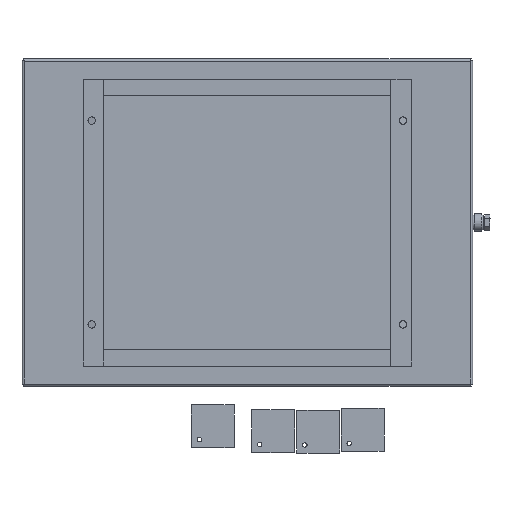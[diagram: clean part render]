
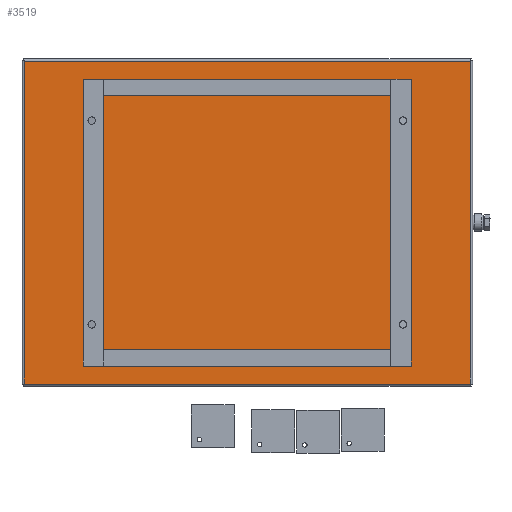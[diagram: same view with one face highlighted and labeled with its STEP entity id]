
A CAD part, front view. The second image highlights one B-rep face of the part: STEP entity #3519.
In plain terms, the highlighted planar face has unit normal (0, -1, 0).
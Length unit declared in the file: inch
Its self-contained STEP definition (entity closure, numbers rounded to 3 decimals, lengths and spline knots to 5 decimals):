
#229 = ORIENTED_EDGE ( 'NONE', *, *, #1499, .T. ) ;
#364 = ORIENTED_EDGE ( 'NONE', *, *, #1323, .T. ) ;
#442 = VECTOR ( 'NONE', #1329, 39.37008 ) ;
#444 = LINE ( 'NONE', #1302, #3219 ) ;
#477 = CARTESIAN_POINT ( 'NONE',  ( 0., -0.1345, 0. ) ) ;
#614 = CARTESIAN_POINT ( 'NONE',  ( 41.86543, -0.1345, -0.197 ) ) ;
#668 = CARTESIAN_POINT ( 'NONE',  ( 41.803, -0.1345, -0.197 ) ) ;
#700 = PLANE ( 'NONE',  #3362 ) ;
#752 = DIRECTION ( 'NONE',  ( 1., 0., 0. ) ) ;
#767 = FACE_OUTER_BOUND ( 'NONE', #2419, .T. ) ;
#885 = DIRECTION ( 'NONE',  ( -1., 0., 0. ) ) ;
#928 = VERTEX_POINT ( 'NONE', #2412 ) ;
#991 = VERTEX_POINT ( 'NONE', #2493 ) ;
#1042 = DIRECTION ( 'NONE',  ( 0., -1., 0. ) ) ;
#1302 = CARTESIAN_POINT ( 'NONE',  ( 0.13457, -0.1345, -30.303 ) ) ;
#1323 = EDGE_CURVE ( 'NONE', #3114, #928, #1800, .T. ) ;
#1329 = DIRECTION ( 'NONE',  ( 0., 0., -1. ) ) ;
#1354 = DIRECTION ( 'NONE',  ( 0., 0., -1. ) ) ;
#1499 = EDGE_CURVE ( 'NONE', #928, #991, #2856, .T. ) ;
#1610 = ORIENTED_EDGE ( 'NONE', *, *, #2157, .T. ) ;
#1753 = ORIENTED_EDGE ( 'NONE', *, *, #2131, .T. ) ;
#1800 = LINE ( 'NONE', #614, #2540 ) ;
#1951 = VERTEX_POINT ( 'NONE', #2872 ) ;
#2131 = EDGE_CURVE ( 'NONE', #991, #1951, #444, .T. ) ;
#2157 = EDGE_CURVE ( 'NONE', #1951, #3114, #2509, .T. ) ;
#2412 = CARTESIAN_POINT ( 'NONE',  ( 0.197, -0.1345, -0.197 ) ) ;
#2419 = EDGE_LOOP ( 'NONE', ( #1753, #1610, #364, #229 ) ) ;
#2493 = CARTESIAN_POINT ( 'NONE',  ( 0.197, -0.1345, -30.303 ) ) ;
#2509 = LINE ( 'NONE', #3066, #3098 ) ;
#2540 = VECTOR ( 'NONE', #885, 39.37008 ) ;
#2549 = CARTESIAN_POINT ( 'NONE',  ( 0.197, -0.1345, -0.13457 ) ) ;
#2856 = LINE ( 'NONE', #2549, #442 ) ;
#2872 = CARTESIAN_POINT ( 'NONE',  ( 41.803, -0.1345, -30.303 ) ) ;
#3066 = CARTESIAN_POINT ( 'NONE',  ( 41.803, -0.1345, -30.36543 ) ) ;
#3098 = VECTOR ( 'NONE', #3349, 39.37008 ) ;
#3114 = VERTEX_POINT ( 'NONE', #668 ) ;
#3219 = VECTOR ( 'NONE', #752, 39.37008 ) ;
#3349 = DIRECTION ( 'NONE',  ( 0., 0., 1. ) ) ;
#3362 = AXIS2_PLACEMENT_3D ( 'NONE', #477, #1042, #1354 ) ;
#3519 = ADVANCED_FACE ( 'NONE', ( #767 ), #700, .T. ) ;
